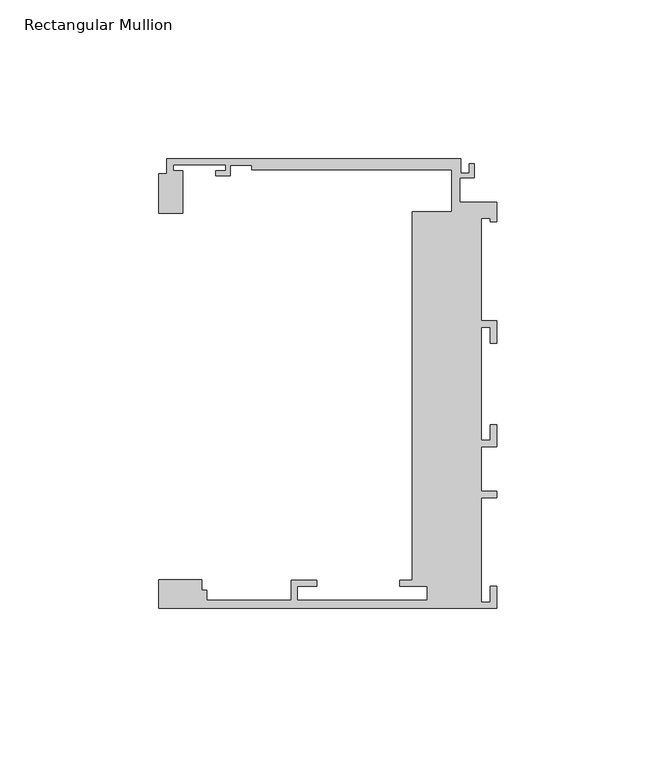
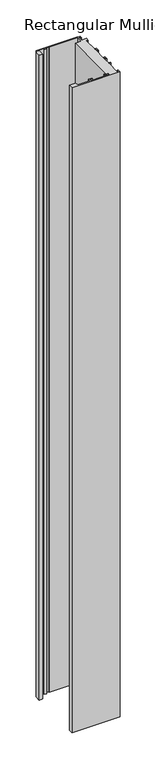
"""IFC4 building model written with IfcOpenShell, lengths in millimetres: member geometry, Rectangular Mullion : Danpal_K12_End-Mullion_B1."""

from ifc_helpers import new_model, si_unit, frame, origin, place, context, project, spatial, polyline, outline, extrude, source, transform, mapped, element, save


def rectangular_mullion_852f4a10(model_context):
    return source(origin(), model_context, "Body", "SweptSolid", [
        extrude(outline(polyline([(-26.6209612, -117.8676658), (-26.6209612, -1.9446289), (-14.1055875, -1.9446289), (-14.1055875, 11.3051512), (-77.1531178, 11.3051512), (-77.1531178, 12.8051513), (-83.8999976, 12.8051513), (-83.8999976, 9.5051512), (-88.3999976, 9.5051512), (-88.3999976, 11.0051513), (-85.3999976, 11.0051513), (-85.3999976, 13.0051512), (-101.8999976, 13.0051512), (-101.8999976, 11.0051513), (-98.8999976, 11.0051513), (-98.8999976, -2.316674), (-106.4117426, -2.316674), (-106.4117426, 10.065304), (-103.8999976, 10.065304), (-103.8999976, 14.8051514), (-11.4019537, 14.8051514), (-11.4019537, 10.3006425), (-8.6518595, 10.3006425), (-8.6518595, 13.3051514), (-7.1518595, 13.3051514), (-7.1518595, 8.8006425), (-11.6055875, 8.8006425), (-11.6055875, 1.0551514), (0.0, 1.0551514), (0.0, -4.9448486), (-2.0, -4.9448486), (-2.0, -3.9448486), (-4.8, -3.9448486), (-4.8, -36.2443486), (0.0, -36.2443486), (0.0, -43.2443486), (-2.0, -43.2443486), (-2.0, -38.2443486), (-4.8, -38.2443486), (-4.8, -73.8676657), (-2.0, -73.8676657), (-2.0, -68.8676657), (0.0, -68.8676657), (0.0, -75.867683), (-4.8, -75.867683), (-4.8, -89.8676485), (0.0, -89.8676485), (0.0, -91.8676485), (-4.8, -91.8676485), (-4.8, -124.7676657), (-2.0, -124.7676657), (-2.0, -119.7676657), (0.0, -119.7676657), (0.0, -126.7676657), (-106.4117426, -126.7676657), (-106.4117426, -117.6986749), (-92.8228167, -117.6986749), (-92.8228167, -121.0676175), (-91.2900275, -121.0676175), (-91.2900275, -124.2676658), (-64.7350275, -124.2676658), (-64.7350275, -117.8676658), (-56.7350275, -117.8676658), (-56.7350275, -119.8676658), (-62.7350275, -119.8676658), (-62.7350275, -124.2676658), (-21.835, -124.2676658), (-21.835, -119.8676658), (-30.6, -119.8676658), (-30.6, -117.8676658), (-26.6209612, -117.8676658)])), frame((0.0, 0.0, -1500.0), z_axis=(0.0, 0.0, 1.0), x_axis=(1.0, 0.0, 0.0)), (0.0, 0.0, 1.0), 1500.0),
    ])


if __name__ == "__main__":
    model = new_model("IFC4")
    model_context = context("Model", 3, world=origin())
    ifc_project = project(units=[si_unit("LENGTHUNIT", "METRE", prefix="MILLI")], contexts=[model_context])
    site = spatial("IfcSite", under=ifc_project)
    building = spatial("IfcBuilding", under=site)
    placement = place(None, origin())
    rectangular_mullion_shape = rectangular_mullion_852f4a10(model_context)
    element("IfcMember", 1, ObjectType="Rectangular Mullion : Danpal_K12_End-Mullion_B1", at=placement, inside=building, context=model_context, shape_type="MappedRepresentation", body=[
        mapped(rectangular_mullion_shape, transform((0.0, 0.0, 0.0), x_axis=(1.0, 0.0, 0.0), y_axis=(0.0, 1.0, 0.0), z_axis=(0.0, 0.0, 1.0))),
    ])
    save(model, "model.ifc")
